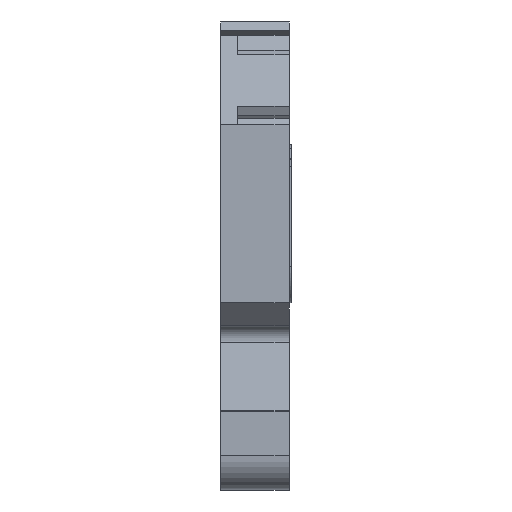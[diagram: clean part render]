
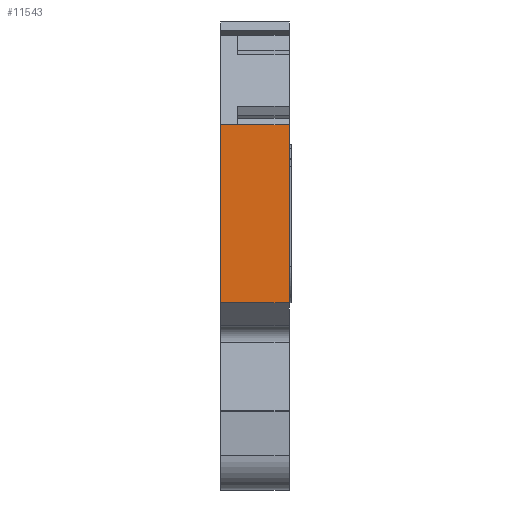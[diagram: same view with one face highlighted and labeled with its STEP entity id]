
A CAD part, left-side view. The second image highlights one B-rep face of the part: STEP entity #11543.
In plain terms, the highlighted planar face has unit normal (-1, 0, 0).
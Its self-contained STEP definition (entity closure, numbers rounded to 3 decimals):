
#531 = CARTESIAN_POINT ( 'NONE',  ( -220.2, 68.718, 11.318 ) ) ;
#540 = DIRECTION ( 'NONE',  ( 0., 0., 1. ) ) ;
#762 = LINE ( 'NONE', #781, #3329 ) ;
#781 = CARTESIAN_POINT ( 'NONE',  ( -220.2, 68.718, 35.918 ) ) ;
#1219 = CARTESIAN_POINT ( 'NONE',  ( -220.2, 68.718, 11.318 ) ) ;
#1420 = VERTEX_POINT ( 'NONE', #531 ) ;
#1730 = ORIENTED_EDGE ( 'NONE', *, *, #3203, .F. ) ;
#2102 = DIRECTION ( 'NONE',  ( 0., 0., 1. ) ) ;
#3193 = DIRECTION ( 'NONE',  ( 0., 1., 0. ) ) ;
#3203 = EDGE_CURVE ( 'NONE', #1420, #8965, #762, .T. ) ;
#3329 = VECTOR ( 'NONE', #2102, 1000. ) ;
#4113 = EDGE_CURVE ( 'NONE', #12600, #10434, #10510, .T. ) ;
#5407 = CARTESIAN_POINT ( 'NONE',  ( -220.2, 62.718, 11.318 ) ) ;
#5643 = ORIENTED_EDGE ( 'NONE', *, *, #4113, .T. ) ;
#5789 = DIRECTION ( 'NONE',  ( -1., 0., 0. ) ) ;
#6562 = VECTOR ( 'NONE', #3193, 1000. ) ;
#6611 = DIRECTION ( 'NONE',  ( 0., 0., 1. ) ) ;
#6664 = AXIS2_PLACEMENT_3D ( 'NONE', #1219, #5789, #6611 ) ;
#6809 = EDGE_CURVE ( 'NONE', #1420, #12600, #10509, .T. ) ;
#7139 = FACE_OUTER_BOUND ( 'NONE', #13014, .T. ) ;
#8327 = CARTESIAN_POINT ( 'NONE',  ( -220.2, 68.718, 26.918 ) ) ;
#8470 = CARTESIAN_POINT ( 'NONE',  ( -220.2, 68.718, 26.918 ) ) ;
#8564 = CARTESIAN_POINT ( 'NONE',  ( -220.2, 62.718, 11.318 ) ) ;
#8858 = LINE ( 'NONE', #8327, #6562 ) ;
#8965 = VERTEX_POINT ( 'NONE', #8470 ) ;
#10256 = ORIENTED_EDGE ( 'NONE', *, *, #6809, .T. ) ;
#10363 = PLANE ( 'NONE',  #6664 ) ;
#10434 = VERTEX_POINT ( 'NONE', #15783 ) ;
#10509 = LINE ( 'NONE', #15054, #14397 ) ;
#10510 = LINE ( 'NONE', #5407, #11236 ) ;
#11236 = VECTOR ( 'NONE', #540, 1000. ) ;
#11543 = ADVANCED_FACE ( 'NONE', ( #7139 ), #10363, .T. ) ;
#12600 = VERTEX_POINT ( 'NONE', #8564 ) ;
#12923 = EDGE_CURVE ( 'NONE', #10434, #8965, #8858, .T. ) ;
#13014 = EDGE_LOOP ( 'NONE', ( #1730, #10256, #5643, #15157 ) ) ;
#14230 = DIRECTION ( 'NONE',  ( 0., -1., 0. ) ) ;
#14397 = VECTOR ( 'NONE', #14230, 1000. ) ;
#15054 = CARTESIAN_POINT ( 'NONE',  ( -220.2, 68.718, 11.318 ) ) ;
#15157 = ORIENTED_EDGE ( 'NONE', *, *, #12923, .T. ) ;
#15783 = CARTESIAN_POINT ( 'NONE',  ( -220.2, 62.718, 26.918 ) ) ;
